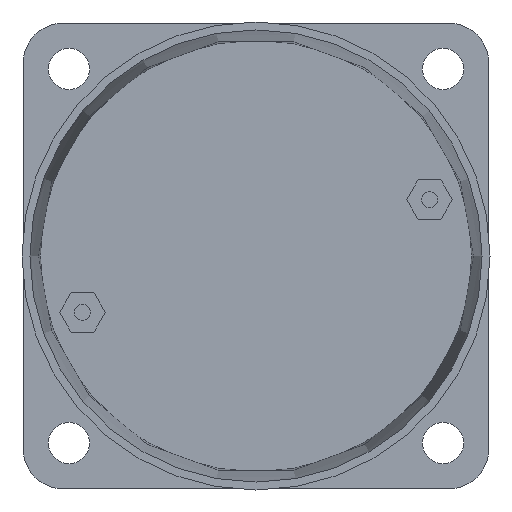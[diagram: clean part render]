
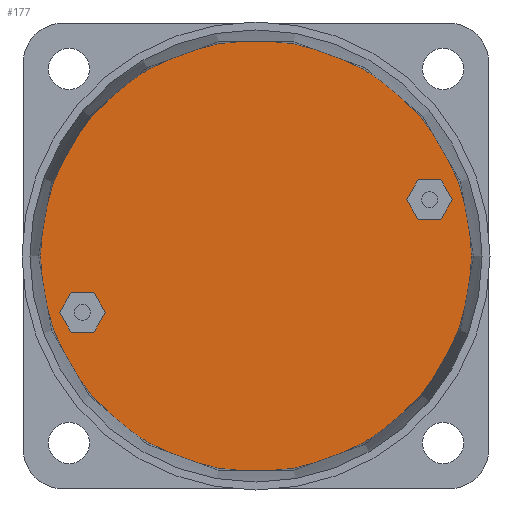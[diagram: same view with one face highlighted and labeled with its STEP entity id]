
A CAD part, left-side view. The second image highlights one B-rep face of the part: STEP entity #177.
In plain terms, the highlighted planar face has unit normal (-1, 0, 0).
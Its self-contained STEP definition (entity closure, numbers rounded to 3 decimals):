
#177 = ADVANCED_FACE( '', ( #385, #386, #387 ), #388, .F. );
#385 = FACE_OUTER_BOUND( '', #592, .T. );
#386 = FACE_BOUND( '', #593, .T. );
#387 = FACE_BOUND( '', #594, .T. );
#388 = PLANE( '', #595 );
#592 = EDGE_LOOP( '', ( #983 ) );
#593 = EDGE_LOOP( '', ( #984, #985, #986, #987, #988, #989 ) );
#594 = EDGE_LOOP( '', ( #990, #991, #992, #993, #994, #995 ) );
#595 = AXIS2_PLACEMENT_3D( '', #996, #997, #998 );
#983 = ORIENTED_EDGE( '', *, *, #1130, .F. );
#984 = ORIENTED_EDGE( '', *, *, #1163, .T. );
#985 = ORIENTED_EDGE( '', *, *, #1184, .T. );
#986 = ORIENTED_EDGE( '', *, *, #1159, .T. );
#987 = ORIENTED_EDGE( '', *, *, #1140, .T. );
#988 = ORIENTED_EDGE( '', *, *, #1109, .T. );
#989 = ORIENTED_EDGE( '', *, *, #1134, .T. );
#990 = ORIENTED_EDGE( '', *, *, #1185, .T. );
#991 = ORIENTED_EDGE( '', *, *, #1177, .T. );
#992 = ORIENTED_EDGE( '', *, *, #1186, .T. );
#993 = ORIENTED_EDGE( '', *, *, #1156, .T. );
#994 = ORIENTED_EDGE( '', *, *, #1181, .T. );
#995 = ORIENTED_EDGE( '', *, *, #1187, .T. );
#996 = CARTESIAN_POINT( '', ( -11.25, 29.5, 0. ) );
#997 = DIRECTION( '', ( 1., 0., 0. ) );
#998 = DIRECTION( '', ( 0., 1., 0. ) );
#1109 = EDGE_CURVE( '', #1309, #1313, #1315, .T. );
#1130 = EDGE_CURVE( '', #1346, #1346, #1347, .T. );
#1134 = EDGE_CURVE( '', #1313, #1350, #1352, .T. );
#1140 = EDGE_CURVE( '', #1358, #1309, #1360, .T. );
#1156 = EDGE_CURVE( '', #1378, #1380, #1382, .T. );
#1159 = EDGE_CURVE( '', #1384, #1358, #1386, .T. );
#1163 = EDGE_CURVE( '', #1350, #1389, #1391, .T. );
#1177 = EDGE_CURVE( '', #1404, #1406, #1408, .T. );
#1181 = EDGE_CURVE( '', #1380, #1411, #1413, .T. );
#1184 = EDGE_CURVE( '', #1389, #1384, #1416, .T. );
#1185 = EDGE_CURVE( '', #1417, #1404, #1418, .T. );
#1186 = EDGE_CURVE( '', #1406, #1378, #1419, .T. );
#1187 = EDGE_CURVE( '', #1411, #1417, #1420, .T. );
#1309 = VERTEX_POINT( '', #1558 );
#1313 = VERTEX_POINT( '', #1564 );
#1315 = LINE( '', #1567, #1568 );
#1346 = VERTEX_POINT( '', #1612 );
#1347 = CIRCLE( '', #1613, 27.191 );
#1350 = VERTEX_POINT( '', #1616 );
#1352 = LINE( '', #1619, #1620 );
#1358 = VERTEX_POINT( '', #1628 );
#1360 = LINE( '', #1631, #1632 );
#1378 = VERTEX_POINT( '', #1652 );
#1380 = VERTEX_POINT( '', #1655 );
#1382 = LINE( '', #1658, #1659 );
#1384 = VERTEX_POINT( '', #1661 );
#1386 = LINE( '', #1664, #1665 );
#1389 = VERTEX_POINT( '', #1668 );
#1391 = LINE( '', #1671, #1672 );
#1404 = VERTEX_POINT( '', #1687 );
#1406 = VERTEX_POINT( '', #1690 );
#1408 = LINE( '', #1693, #1694 );
#1411 = VERTEX_POINT( '', #1697 );
#1413 = LINE( '', #1700, #1701 );
#1416 = LINE( '', #1704, #1705 );
#1417 = VERTEX_POINT( '', #1706 );
#1418 = LINE( '', #1707, #1708 );
#1419 = LINE( '', #1709, #1710 );
#1420 = LINE( '', #1711, #1712 );
#1558 = CARTESIAN_POINT( '', ( -11.25, 10.512, 7.107 ) );
#1564 = CARTESIAN_POINT( '', ( -11.25, 9.069, 9.607 ) );
#1567 = CARTESIAN_POINT( '', ( -11.25, 10.512, 7.107 ) );
#1568 = VECTOR( '', #1844, 1000. );
#1612 = CARTESIAN_POINT( '', ( -11.25, 29.5, -27.191 ) );
#1613 = AXIS2_PLACEMENT_3D( '', #1861, #1862, #1863 );
#1616 = CARTESIAN_POINT( '', ( -11.25, 6.182, 9.607 ) );
#1619 = CARTESIAN_POINT( '', ( -11.25, 9.069, 9.607 ) );
#1620 = VECTOR( '', #1865, 1000. );
#1628 = CARTESIAN_POINT( '', ( -11.25, 9.069, 4.607 ) );
#1631 = CARTESIAN_POINT( '', ( -11.25, 9.069, 4.607 ) );
#1632 = VECTOR( '', #1869, 1000. );
#1652 = CARTESIAN_POINT( '', ( -11.25, 49.931, -4.607 ) );
#1655 = CARTESIAN_POINT( '', ( -11.25, 48.488, -7.107 ) );
#1658 = CARTESIAN_POINT( '', ( -11.25, 49.931, -4.607 ) );
#1659 = VECTOR( '', #1886, 1000. );
#1661 = CARTESIAN_POINT( '', ( -11.25, 6.182, 4.607 ) );
#1664 = CARTESIAN_POINT( '', ( -11.25, 6.182, 4.607 ) );
#1665 = VECTOR( '', #1888, 1000. );
#1668 = CARTESIAN_POINT( '', ( -11.25, 4.739, 7.107 ) );
#1671 = CARTESIAN_POINT( '', ( -11.25, 6.182, 9.607 ) );
#1672 = VECTOR( '', #1890, 1000. );
#1687 = CARTESIAN_POINT( '', ( -11.25, 54.261, -7.107 ) );
#1690 = CARTESIAN_POINT( '', ( -11.25, 52.818, -4.607 ) );
#1693 = CARTESIAN_POINT( '', ( -11.25, 54.261, -7.107 ) );
#1694 = VECTOR( '', #1898, 1000. );
#1697 = CARTESIAN_POINT( '', ( -11.25, 49.931, -9.607 ) );
#1700 = CARTESIAN_POINT( '', ( -11.25, 48.488, -7.107 ) );
#1701 = VECTOR( '', #1900, 1000. );
#1704 = CARTESIAN_POINT( '', ( -11.25, 4.739, 7.107 ) );
#1705 = VECTOR( '', #1901, 1000. );
#1706 = CARTESIAN_POINT( '', ( -11.25, 52.818, -9.607 ) );
#1707 = CARTESIAN_POINT( '', ( -11.25, 52.818, -9.607 ) );
#1708 = VECTOR( '', #1902, 1000. );
#1709 = CARTESIAN_POINT( '', ( -11.25, 52.818, -4.607 ) );
#1710 = VECTOR( '', #1903, 1000. );
#1711 = CARTESIAN_POINT( '', ( -11.25, 49.931, -9.607 ) );
#1712 = VECTOR( '', #1904, 1000. );
#1844 = DIRECTION( '', ( 0., -0.5, 0.866 ) );
#1861 = CARTESIAN_POINT( '', ( -11.25, 29.5, 0. ) );
#1862 = DIRECTION( '', ( 1., 0., 0. ) );
#1863 = DIRECTION( '', ( 0., 0., -1. ) );
#1865 = DIRECTION( '', ( 0., -1., 0. ) );
#1869 = DIRECTION( '', ( 0., 0.5, 0.866 ) );
#1886 = DIRECTION( '', ( 0., -0.5, -0.866 ) );
#1888 = DIRECTION( '', ( 0., 1., 0. ) );
#1890 = DIRECTION( '', ( 0., -0.5, -0.866 ) );
#1898 = DIRECTION( '', ( 0., -0.5, 0.866 ) );
#1900 = DIRECTION( '', ( 0., 0.5, -0.866 ) );
#1901 = DIRECTION( '', ( 0., 0.5, -0.866 ) );
#1902 = DIRECTION( '', ( 0., 0.5, 0.866 ) );
#1903 = DIRECTION( '', ( 0., -1., 0. ) );
#1904 = DIRECTION( '', ( 0., 1., 0. ) );
